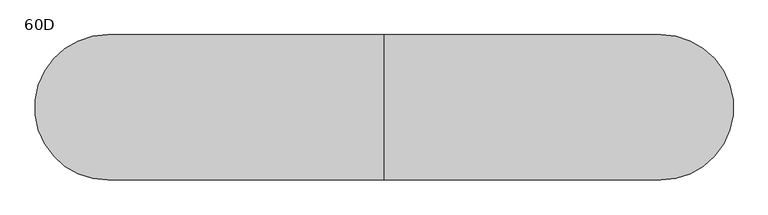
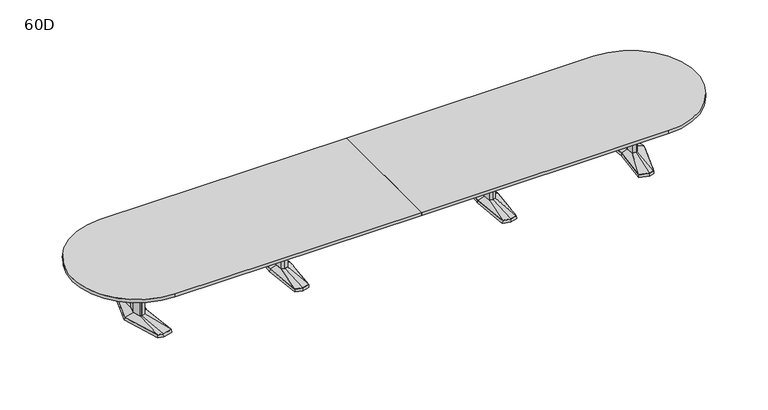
"""IFC4 building model written with IfcOpenShell, lengths in millimetres: furniture geometry, Coalesse_AM_Table_Conference_ETable2_Racetrack_24ft_AluminiumBase : 60D."""

from ifc_helpers import new_model, si_unit, point, frame, frame_2d, origin, place, context, project, spatial, polyline, circle_curve, trimmed, segment, composite_curve, outline, extrude, faceted_brep, source, transform, mapped, element, save
from ifc_brep_helpers import plane_surface, spline_surface, advanced_brep


def furniture_60d_6072927f(model_context):
    return source(origin(), model_context, "Body", "SolidModel", [
        faceted_brep([(1137.9666209, -433.8053819, 38.1), (1219.2, -455.556576, 38.1), (1300.4333791, -433.8053819, 38.1), (1338.2564774, 0.0, 38.1), (1300.4333791, 433.8053819, 38.1), (1219.2, 455.556576, 38.1), (1137.9666209, 433.8053819, 38.1), (1100.1435226, 0.0, 38.1), (1136.4817205, -435.0512063, 3.175), (1098.55, 0.0, 3.175), (1136.4817205, 435.0512063, 3.175), (1219.2, 457.2, 3.175), (1301.9182795, 435.0512063, 3.175), (1339.85, 0.0, 3.175), (1301.9182795, -435.0512063, 3.175), (1219.2, -457.2, 3.175), (1219.2, 429.2617927, 3.175), (1141.2323194, 408.3850278, 3.175), (1144.4980179, 382.9646737, 3.175), (1219.2, 402.9670094, 3.175), (1293.9019821, 382.9646737, 3.175), (1297.1676806, 408.3850278, 3.175), (1219.2, -429.2617927, 3.175), (1297.1676806, -408.3850278, 3.175), (1293.9019821, -382.9646737, 3.175), (1219.2, -402.9670094, 3.175), (1144.4980179, -382.9646737, 3.175), (1141.2323194, -408.3850278, 3.175), (1147.3425738, 114.6326257, 3.175), (1136.6573924, 0.0, 3.175), (1147.3425738, -114.6326257, 3.175), (1219.2, -133.8761372, 3.175), (1291.0574262, -114.6326257, 3.175), (1301.7426076, 0.0, 3.175), (1291.0574262, 114.6326257, 3.175), (1219.2, 133.8761372, 3.175), (1219.2, 429.2617927, 0.0), (1297.1676806, 408.3850278, 0.0), (1293.9019821, 382.9646737, 0.0), (1219.2, 402.9670094, 0.0), (1144.4980179, 382.9646737, 0.0), (1141.2323194, 408.3850278, 0.0), (1219.2, -429.2617927, 0.0), (1141.2323194, -408.3850278, 0.0), (1144.4980179, -382.9646737, 0.0), (1219.2, -402.9670094, 0.0), (1293.9019821, -382.9646737, 0.0), (1297.1676806, -408.3850278, 0.0), (1147.3425738, 114.6326257, 0.0), (1219.2, 133.8761372, 0.0), (1291.0574262, 114.6326257, 0.0), (1301.7426076, 0.0, 0.0), (1291.0574262, -114.6326257, 0.0), (1219.2, -133.8761372, 0.0), (1147.3425738, -114.6326257, 0.0), (1136.6573924, 0.0, 0.0)], [[[0, 1, 2, 3, 4, 5, 6, 7]], [[8, 9, 10, 11, 12, 13, 14, 15], [16, 17, 18, 19, 20, 21], [22, 23, 24, 25, 26, 27], [28, 29, 30, 31, 32, 33, 34, 35]], [[1, 0, 8, 15]], [[2, 1, 15, 14]], [[3, 2, 14, 13]], [[4, 3, 13, 12]], [[5, 4, 12, 11]], [[6, 5, 11, 10]], [[7, 6, 10, 9]], [[0, 7, 9, 8]], [[36, 37, 38, 39, 40, 41]], [[42, 43, 44, 45, 46, 47]], [[48, 49, 50, 51, 52, 53, 54, 55]], [[36, 41, 17, 16]], [[41, 40, 18, 17]], [[40, 39, 19, 18]], [[39, 38, 20, 19]], [[38, 37, 21, 20]], [[37, 36, 16, 21]], [[42, 47, 23, 22]], [[47, 46, 24, 23]], [[46, 45, 25, 24]], [[45, 44, 26, 25]], [[44, 43, 27, 26]], [[43, 42, 22, 27]], [[48, 55, 29, 28]], [[55, 54, 30, 29]], [[54, 53, 31, 30]], [[53, 52, 32, 31]], [[52, 51, 33, 32]], [[51, 50, 34, 33]], [[50, 49, 35, 34]], [[49, 48, 28, 35]]]),
        faceted_brep([(1182.8167166, 84.6900825, 698.5), (1174.9225513, 0.0, 698.5), (1182.8167166, -84.6900825, 698.5), (1219.2, -94.4335728, 698.5), (1255.5832834, -84.6900825, 698.5), (1263.4774487, 0.0, 698.5), (1255.5832834, 84.6900825, 698.5), (1219.2, 94.4335728, 698.5), (1182.8167166, 84.6900825, 63.5), (1219.2, 94.4335728, 63.5), (1255.5832834, 84.6900825, 63.5), (1263.4774487, 0.0, 63.5), (1255.5832834, -84.6900825, 63.5), (1219.2, -94.4335728, 63.5), (1182.8167166, -84.6900825, 63.5), (1174.9225513, 0.0, 63.5)], [[[0, 1, 2, 3, 4, 5, 6, 7]], [[8, 9, 10, 11, 12, 13, 14, 15]], [[1, 0, 8, 15]], [[2, 1, 15, 14]], [[3, 2, 14, 13]], [[4, 3, 13, 12]], [[5, 4, 12, 11]], [[6, 5, 11, 10]], [[7, 6, 10, 9]], [[0, 7, 9, 8]]]),
        advanced_brep(
        [(1182.8167166, 84.6900825, 63.5), (1174.9225513, 0.0, 63.5), (1182.8167166, -84.6900825, 63.5), (1219.2, -94.4335728, 63.5), (1255.5832834, -84.6900825, 63.5), (1263.4774487, 0.0, 63.5), (1255.5832834, 84.6900825, 63.5), (1219.2, 94.4335728, 63.5), (1137.9666209, 433.8053819, 38.1), (1219.2, 455.556576, 38.1), (1300.4333791, 433.8053819, 38.1), (1338.2564774, 0.0, 38.1), (1300.4333791, -433.8053819, 38.1), (1219.2, -455.556576, 38.1), (1137.9666209, -433.8053819, 38.1), (1100.1435226, 0.0, 38.1)],
        [
            (0, 1),
            (1, 2),
            (2, 3),
            (3, 4),
            (4, 5),
            (5, 6),
            (6, 7),
            (7, 0),
            (8, 9),
            (9, 10),
            (10, 11),
            (11, 12),
            (12, 13),
            (13, 14),
            (14, 15),
            (15, 8),
            (15, 1),
            (0, 8),
            (14, 2),
            (13, 3),
            (12, 4),
            (11, 5),
            (10, 6),
            (9, 7),
        ],
        [
            plane_surface(frame((1219.2, 0.0, 63.5), z_axis=(0.0, 0.0, 1.0000000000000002), x_axis=(-0.9659615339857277, -0.25868574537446, 0.0))),
            plane_surface(frame((1219.2, 0.0, 38.1), z_axis=(0.0, 0.0, -1.0000000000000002), x_axis=(-0.9659615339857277, -0.25868574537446, 0.0))),
            spline_surface(1, 1, [[(1137.9666209, 433.8053819, 38.1), (1182.8167166, 84.6900825, 63.5)], [(1100.1435226, 0.0, 38.1), (1174.9225513, 0.0, 63.5)]], [2, 2], [2, 2], [0.0, 1.0], [0.0, 1.0]),
            spline_surface(1, 1, [[(1100.1435226, 0.0, 38.1), (1174.9225513, 0.0, 63.5)], [(1137.9666209, -433.8053819, 38.1), (1182.8167166, -84.6900825, 63.5)]], [2, 2], [2, 2], [0.0, 1.0], [0.0, 1.0]),
            spline_surface(1, 1, [[(1137.9666209, -433.8053819, 38.1), (1182.8167166, -84.6900825, 63.5)], [(1219.2, -455.556576, 38.1), (1219.2, -94.4335728, 63.5)]], [2, 2], [2, 2], [0.0, 1.0], [0.0, 1.0]),
            spline_surface(1, 1, [[(1219.2, -455.556576, 38.1), (1219.2, -94.4335728, 63.5)], [(1300.4333791, -433.8053819, 38.1), (1255.5832834, -84.6900825, 63.5)]], [2, 2], [2, 2], [0.0, 1.0], [0.0, 1.0]),
            spline_surface(1, 1, [[(1300.4333791, -433.8053819, 38.1), (1255.5832834, -84.6900825, 63.5)], [(1338.2564774, 0.0, 38.1), (1263.4774487, 0.0, 63.5)]], [2, 2], [2, 2], [0.0, 1.0], [0.0, 1.0]),
            spline_surface(1, 1, [[(1338.2564774, 0.0, 38.1), (1263.4774487, 0.0, 63.5)], [(1300.4333791, 433.8053819, 38.1), (1255.5832834, 84.6900825, 63.5)]], [2, 2], [2, 2], [0.0, 1.0], [0.0, 1.0]),
            spline_surface(1, 1, [[(1300.4333791, 433.8053819, 38.1), (1255.5832834, 84.6900825, 63.5)], [(1219.2, 455.556576, 38.1), (1219.2, 94.4335728, 63.5)]], [2, 2], [2, 2], [0.0, 1.0], [0.0, 1.0]),
            spline_surface(1, 1, [[(1219.2, 455.556576, 38.1), (1219.2, 94.4335728, 63.5)], [(1137.9666209, 433.8053819, 38.1), (1182.8167166, 84.6900825, 63.5)]], [2, 2], [2, 2], [0.0, 1.0], [0.0, 1.0]),
        ],
        [
            (0, [[1, 2, 3, 4, 5, 6, 7, 8]]),
            (1, [[9, 10, 11, 12, 13, 14, 15, 16]]),
            (2, [[-16, 17, -1, 18]]),
            (3, [[-15, 19, -2, -17]]),
            (4, [[-14, 20, -3, -19]]),
            (5, [[-13, 21, -4, -20]]),
            (6, [[-12, 22, -5, -21]]),
            (7, [[-11, 23, -6, -22]]),
            (8, [[-10, 24, -7, -23]]),
            (9, [[-9, -18, -8, -24]]),
        ],
    ),
        faceted_brep([(-1300.4333791, -433.8053819, 38.1), (-1219.2, -455.556576, 38.1), (-1137.9666209, -433.8053819, 38.1), (-1100.1435226, 0.0, 38.1), (-1137.9666209, 433.8053819, 38.1), (-1219.2, 455.556576, 38.1), (-1300.4333791, 433.8053819, 38.1), (-1338.2564774, 0.0, 38.1), (-1301.9182795, -435.0512063, 3.175), (-1339.85, 0.0, 3.175), (-1301.9182795, 435.0512063, 3.175), (-1219.2, 457.2, 3.175), (-1136.4817205, 435.0512063, 3.175), (-1098.55, 0.0, 3.175), (-1136.4817205, -435.0512063, 3.175), (-1219.2, -457.2, 3.175), (-1219.2, 429.2617927, 3.175), (-1297.1676806, 408.3850278, 3.175), (-1293.9019821, 382.9646737, 3.175), (-1219.2, 402.9670094, 3.175), (-1144.4980179, 382.9646737, 3.175), (-1141.2323194, 408.3850278, 3.175), (-1219.2, -429.2617927, 3.175), (-1141.2323194, -408.3850278, 3.175), (-1144.4980179, -382.9646737, 3.175), (-1219.2, -402.9670094, 3.175), (-1293.9019821, -382.9646737, 3.175), (-1297.1676806, -408.3850278, 3.175), (-1291.0574262, 114.6326257, 3.175), (-1301.7426076, 0.0, 3.175), (-1291.0574262, -114.6326257, 3.175), (-1219.2, -133.8761372, 3.175), (-1147.3425738, -114.6326257, 3.175), (-1136.6573924, 0.0, 3.175), (-1147.3425738, 114.6326257, 3.175), (-1219.2, 133.8761372, 3.175), (-1219.2, 429.2617927, 0.0), (-1141.2323194, 408.3850278, 0.0), (-1144.4980179, 382.9646737, 0.0), (-1219.2, 402.9670094, 0.0), (-1293.9019821, 382.9646737, 0.0), (-1297.1676806, 408.3850278, 0.0), (-1219.2, -429.2617927, 0.0), (-1297.1676806, -408.3850278, 0.0), (-1293.9019821, -382.9646737, 0.0), (-1219.2, -402.9670094, 0.0), (-1144.4980179, -382.9646737, 0.0), (-1141.2323194, -408.3850278, 0.0), (-1291.0574262, 114.6326257, 0.0), (-1219.2, 133.8761372, 0.0), (-1147.3425738, 114.6326257, 0.0), (-1136.6573924, 0.0, 0.0), (-1147.3425738, -114.6326257, 0.0), (-1219.2, -133.8761372, 0.0), (-1291.0574262, -114.6326257, 0.0), (-1301.7426076, 0.0, 0.0)], [[[0, 1, 2, 3, 4, 5, 6, 7]], [[8, 9, 10, 11, 12, 13, 14, 15], [16, 17, 18, 19, 20, 21], [22, 23, 24, 25, 26, 27], [28, 29, 30, 31, 32, 33, 34, 35]], [[1, 0, 8, 15]], [[2, 1, 15, 14]], [[3, 2, 14, 13]], [[4, 3, 13, 12]], [[5, 4, 12, 11]], [[6, 5, 11, 10]], [[7, 6, 10, 9]], [[0, 7, 9, 8]], [[36, 37, 38, 39, 40, 41]], [[42, 43, 44, 45, 46, 47]], [[48, 49, 50, 51, 52, 53, 54, 55]], [[36, 41, 17, 16]], [[41, 40, 18, 17]], [[40, 39, 19, 18]], [[39, 38, 20, 19]], [[38, 37, 21, 20]], [[37, 36, 16, 21]], [[42, 47, 23, 22]], [[47, 46, 24, 23]], [[46, 45, 25, 24]], [[45, 44, 26, 25]], [[44, 43, 27, 26]], [[43, 42, 22, 27]], [[48, 55, 29, 28]], [[55, 54, 30, 29]], [[54, 53, 31, 30]], [[53, 52, 32, 31]], [[52, 51, 33, 32]], [[51, 50, 34, 33]], [[50, 49, 35, 34]], [[49, 48, 28, 35]]]),
        faceted_brep([(-1255.5832834, 84.6900825, 698.5), (-1263.4774487, 0.0, 698.5), (-1255.5832834, -84.6900825, 698.5), (-1219.2, -94.4335728, 698.5), (-1182.8167166, -84.6900825, 698.5), (-1174.9225513, 0.0, 698.5), (-1182.8167166, 84.6900825, 698.5), (-1219.2, 94.4335728, 698.5), (-1255.5832834, 84.6900825, 63.5), (-1219.2, 94.4335728, 63.5), (-1182.8167166, 84.6900825, 63.5), (-1174.9225513, 0.0, 63.5), (-1182.8167166, -84.6900825, 63.5), (-1219.2, -94.4335728, 63.5), (-1255.5832834, -84.6900825, 63.5), (-1263.4774487, 0.0, 63.5)], [[[0, 1, 2, 3, 4, 5, 6, 7]], [[8, 9, 10, 11, 12, 13, 14, 15]], [[1, 0, 8, 15]], [[2, 1, 15, 14]], [[3, 2, 14, 13]], [[4, 3, 13, 12]], [[5, 4, 12, 11]], [[6, 5, 11, 10]], [[7, 6, 10, 9]], [[0, 7, 9, 8]]]),
        advanced_brep(
        [(-1255.5832834, 84.6900825, 63.5), (-1263.4774487, 0.0, 63.5), (-1255.5832834, -84.6900825, 63.5), (-1219.2, -94.4335728, 63.5), (-1182.8167166, -84.6900825, 63.5), (-1174.9225513, 0.0, 63.5), (-1182.8167166, 84.6900825, 63.5), (-1219.2, 94.4335728, 63.5), (-1300.4333791, 433.8053819, 38.1), (-1219.2, 455.556576, 38.1), (-1137.9666209, 433.8053819, 38.1), (-1100.1435226, 0.0, 38.1), (-1137.9666209, -433.8053819, 38.1), (-1219.2, -455.556576, 38.1), (-1300.4333791, -433.8053819, 38.1), (-1338.2564774, 0.0, 38.1)],
        [
            (0, 1),
            (1, 2),
            (2, 3),
            (3, 4),
            (4, 5),
            (5, 6),
            (6, 7),
            (7, 0),
            (8, 9),
            (9, 10),
            (10, 11),
            (11, 12),
            (12, 13),
            (13, 14),
            (14, 15),
            (15, 8),
            (15, 1),
            (0, 8),
            (14, 2),
            (13, 3),
            (12, 4),
            (11, 5),
            (10, 6),
            (9, 7),
        ],
        [
            plane_surface(frame((-1219.2, 0.0, 63.5), z_axis=(0.0, 0.0, 1.0000000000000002), x_axis=(-0.9659615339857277, -0.25868574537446, 0.0))),
            plane_surface(frame((-1219.2, 0.0, 38.1), z_axis=(0.0, 0.0, -1.0000000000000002), x_axis=(-0.9659615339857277, -0.25868574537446, 0.0))),
            spline_surface(1, 1, [[(-1300.4333791, 433.8053819, 38.1), (-1255.5832834, 84.6900825, 63.5)], [(-1338.2564774, 0.0, 38.1), (-1263.4774487, 0.0, 63.5)]], [2, 2], [2, 2], [0.0, 1.0], [0.0, 1.0]),
            spline_surface(1, 1, [[(-1338.2564774, 0.0, 38.1), (-1263.4774487, 0.0, 63.5)], [(-1300.4333791, -433.8053819, 38.1), (-1255.5832834, -84.6900825, 63.5)]], [2, 2], [2, 2], [0.0, 1.0], [0.0, 1.0]),
            spline_surface(1, 1, [[(-1300.4333791, -433.8053819, 38.1), (-1255.5832834, -84.6900825, 63.5)], [(-1219.2, -455.556576, 38.1), (-1219.2, -94.4335728, 63.5)]], [2, 2], [2, 2], [0.0, 1.0], [0.0, 1.0]),
            spline_surface(1, 1, [[(-1219.2, -455.556576, 38.1), (-1219.2, -94.4335728, 63.5)], [(-1137.9666209, -433.8053819, 38.1), (-1182.8167166, -84.6900825, 63.5)]], [2, 2], [2, 2], [0.0, 1.0], [0.0, 1.0]),
            spline_surface(1, 1, [[(-1137.9666209, -433.8053819, 38.1), (-1182.8167166, -84.6900825, 63.5)], [(-1100.1435226, 0.0, 38.1), (-1174.9225513, 0.0, 63.5)]], [2, 2], [2, 2], [0.0, 1.0], [0.0, 1.0]),
            spline_surface(1, 1, [[(-1100.1435226, 0.0, 38.1), (-1174.9225513, 0.0, 63.5)], [(-1137.9666209, 433.8053819, 38.1), (-1182.8167166, 84.6900825, 63.5)]], [2, 2], [2, 2], [0.0, 1.0], [0.0, 1.0]),
            spline_surface(1, 1, [[(-1137.9666209, 433.8053819, 38.1), (-1182.8167166, 84.6900825, 63.5)], [(-1219.2, 455.556576, 38.1), (-1219.2, 94.4335728, 63.5)]], [2, 2], [2, 2], [0.0, 1.0], [0.0, 1.0]),
            spline_surface(1, 1, [[(-1219.2, 455.556576, 38.1), (-1219.2, 94.4335728, 63.5)], [(-1300.4333791, 433.8053819, 38.1), (-1255.5832834, 84.6900825, 63.5)]], [2, 2], [2, 2], [0.0, 1.0], [0.0, 1.0]),
        ],
        [
            (0, [[1, 2, 3, 4, 5, 6, 7, 8]]),
            (1, [[9, 10, 11, 12, 13, 14, 15, 16]]),
            (2, [[-16, 17, -1, 18]]),
            (3, [[-15, 19, -2, -17]]),
            (4, [[-14, 20, -3, -19]]),
            (5, [[-13, 21, -4, -20]]),
            (6, [[-12, 22, -5, -21]]),
            (7, [[-11, 23, -6, -22]]),
            (8, [[-10, 24, -7, -23]]),
            (9, [[-9, -18, -8, -24]]),
        ],
    ),
        faceted_brep([(2852.8994335, 455.5848221, 38.1), (2743.3218777, 426.2263816, 38.1), (2784.4851217, 0.0, 38.1), (2743.3218777, -426.2263816, 38.1), (2852.8994335, -455.5848221, 38.1), (2909.0257896, -440.5478297, 38.1), (3046.3371769, 0.0, 38.1), (2909.0257896, 440.5478297, 38.1), (2852.8994254, 457.2283104, 3.175), (2910.2811972, 441.8549756, 3.175), (3048.0, 0.0, 3.175), (2910.2811972, -441.8549756, 3.175), (2852.8994254, -457.2283104, 3.175), (2741.6125, -427.4118891, 3.175), (2782.8902356, 0.0, 3.175), (2741.6125, 427.4118891, 3.175), (2856.488865, 428.3273875, 3.175), (2751.4405728, 402.1057253, 3.175), (2759.559268, 377.985069, 3.175), (2860.0782966, 401.0699529, 3.175), (2910.6379225, 387.524361, 3.175), (2909.8318561, 414.0360954, 3.175), (2856.488865, -428.3273875, 3.175), (2909.8318561, -414.0360954, 3.175), (2910.6379225, -387.524361, 3.175), (2860.0782966, -401.0699529, 3.175), (2759.559268, -377.985069, 3.175), (2751.4405728, -402.1057253, 3.175), (2983.0841121, 0.0, 3.175), (2950.8147111, 120.4193755, 3.175), (2902.1674722, 133.471665, 3.175), (2822.2868026, 119.4176561, 3.175), (2811.1555966, 0.0, 3.175), (2822.2868026, -119.4176561, 3.175), (2902.1674722, -133.471665, 3.175), (2950.8147111, -120.4193755, 3.175), (2856.488865, 428.3273875, 0.0), (2909.8318561, 414.0360954, 0.0), (2910.6379225, 387.524361, 0.0), (2860.0782966, 401.0699529, 0.0), (2759.559268, 377.985069, 0.0), (2751.4405728, 402.1057253, 0.0), (2856.488865, -428.3273875, 0.0), (2751.4405728, -402.1057253, 0.0), (2759.559268, -377.985069, 0.0), (2860.0782966, -401.0699529, 0.0), (2910.6379225, -387.524361, 0.0), (2909.8318561, -414.0360954, 0.0), (2983.0841121, 0.0, 0.0), (2950.8147111, -120.4193755, 0.0), (2902.1674722, -133.471665, 0.0), (2822.2868026, -119.4176561, 0.0), (2811.1555966, 0.0, 0.0), (2822.2868026, 119.4176561, 0.0), (2902.1674722, 133.471665, 0.0), (2950.8147111, 120.4193755, 0.0)], [[[0, 1, 2, 3, 4, 5, 6, 7]], [[8, 9, 10, 11, 12, 13, 14, 15], [16, 17, 18, 19, 20, 21], [22, 23, 24, 25, 26, 27], [28, 29, 30, 31, 32, 33, 34, 35]], [[7, 9, 8, 0]], [[6, 10, 9, 7]], [[5, 11, 10, 6]], [[4, 12, 11, 5]], [[3, 13, 12, 4]], [[2, 14, 13, 3]], [[1, 15, 14, 2]], [[0, 8, 15, 1]], [[36, 37, 38, 39, 40, 41]], [[42, 43, 44, 45, 46, 47]], [[48, 49, 50, 51, 52, 53, 54, 55]], [[36, 16, 21, 37]], [[37, 21, 20, 38]], [[38, 20, 19, 39]], [[39, 19, 18, 40]], [[40, 18, 17, 41]], [[41, 17, 16, 36]], [[42, 22, 27, 43]], [[43, 27, 26, 44]], [[44, 26, 25, 45]], [[45, 25, 24, 46]], [[46, 24, 23, 47]], [[47, 23, 22, 42]], [[48, 28, 35, 49]], [[49, 35, 34, 50]], [[50, 34, 33, 51]], [[51, 33, 32, 52]], [[52, 32, 31, 53]], [[53, 31, 30, 54]], [[54, 30, 29, 55]], [[55, 29, 28, 48]]]),
        faceted_brep([(2943.6398336, 0.0, 698.5), (2919.7046046, 89.3188359, 698.5), (2902.8512484, 93.8406728, 698.5), (2900.4514011, 94.4845635, 698.5), (2857.523896, 86.9320037, 698.5), (2849.4207556, 0.0, 698.5), (2857.523896, -86.9320037, 698.5), (2900.4514011, -94.4845635, 698.5), (2902.8512484, -93.8406728, 698.5), (2919.7046046, -89.3188359, 698.5), (2943.6398336, 0.0, 63.5), (2919.7046046, -89.3188359, 63.5), (2902.8512484, -93.8406728, 63.5), (2900.4514011, -94.4845635, 63.5), (2857.523896, -86.9320037, 63.5), (2849.4207556, 0.0, 63.5), (2857.523896, 86.9320037, 63.5), (2900.4514011, 94.4845635, 63.5), (2902.8512484, 93.8406728, 63.5), (2919.7046046, 89.3188359, 63.5)], [[[0, 1, 2, 3, 4, 5, 6, 7, 8, 9]], [[10, 11, 12, 13, 14, 15, 16, 17, 18, 19]], [[9, 11, 10, 0]], [[8, 12, 11, 9]], [[7, 13, 12, 8]], [[6, 14, 13, 7]], [[5, 15, 14, 6]], [[4, 16, 15, 5]], [[3, 17, 16, 4]], [[2, 18, 17, 3]], [[1, 19, 18, 2]], [[0, 10, 19, 1]]]),
        advanced_brep(
        [(2900.4514011, 94.4845635, 63.5), (2857.523896, 86.9320037, 63.5), (2849.4207556, 0.0, 63.5), (2857.523896, -86.9320037, 63.5), (2900.4514011, -94.4845635, 63.5), (2919.7046046, -89.3188359, 63.5), (2943.6398336, 0.0, 63.5), (2919.7046046, 89.3188359, 63.5), (2852.8994335, 455.5848221, 38.1), (2909.0257896, 440.5478297, 38.1), (3046.3371769, 0.0, 38.1), (2909.0257896, -440.5478297, 38.1), (2852.8994335, -455.5848221, 38.1), (2743.3218777, -426.2263816, 38.1), (2784.4851217, 0.0, 38.1), (2743.3218777, 426.2263816, 38.1)],
        [
            (0, 1),
            (1, 2),
            (2, 3),
            (3, 4),
            (4, 5),
            (5, 6),
            (6, 7),
            (7, 0),
            (8, 9),
            (9, 10),
            (10, 11),
            (11, 12),
            (12, 13),
            (13, 14),
            (14, 15),
            (15, 8),
            (8, 0),
            (7, 9),
            (6, 10),
            (5, 11),
            (4, 12),
            (3, 13),
            (2, 14),
            (1, 15),
        ],
        [
            plane_surface(frame((2893.5525491, 0.0, 63.5), z_axis=(0.0, 0.0, 1.0), x_axis=(-0.25884244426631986, -0.9659195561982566, 0.0))),
            plane_surface(frame((2855.1645625, 0.0, 38.1), z_axis=(0.0, 0.0, -1.0), x_axis=(-0.25884244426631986, -0.9659195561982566, 0.0))),
            spline_surface(1, 1, [[(2852.8994335, 455.5848221, 38.1), (2909.0257896, 440.5478297, 38.1)], [(2900.4514011, 94.4845635, 63.5), (2919.7046046, 89.3188359, 63.5)]], [2, 2], [2, 2], [0.0, 1.0], [0.0, 1.0]),
            spline_surface(1, 1, [[(2909.0257896, 440.5478297, 38.1), (3046.3371769, 0.0, 38.1)], [(2919.7046046, 89.3188359, 63.5), (2943.6398336, 0.0, 63.5)]], [2, 2], [2, 2], [0.0, 1.0], [0.0, 1.0]),
            spline_surface(1, 1, [[(3046.3371769, 0.0, 38.1), (2909.0257896, -440.5478297, 38.1)], [(2943.6398336, 0.0, 63.5), (2919.7046046, -89.3188359, 63.5)]], [2, 2], [2, 2], [0.0, 1.0], [0.0, 1.0]),
            spline_surface(1, 1, [[(2909.0257896, -440.5478297, 38.1), (2852.8994335, -455.5848221, 38.1)], [(2919.7046046, -89.3188359, 63.5), (2900.4514011, -94.4845635, 63.5)]], [2, 2], [2, 2], [0.0, 1.0], [0.0, 1.0]),
            spline_surface(1, 1, [[(2852.8994335, -455.5848221, 38.1), (2743.3218777, -426.2263816, 38.1)], [(2900.4514011, -94.4845635, 63.5), (2857.523896, -86.9320037, 63.5)]], [2, 2], [2, 2], [0.0, 1.0], [0.0, 1.0]),
            spline_surface(1, 1, [[(2743.3218777, -426.2263816, 38.1), (2784.4851217, 0.0, 38.1)], [(2857.523896, -86.9320037, 63.5), (2849.4207556, 0.0, 63.5)]], [2, 2], [2, 2], [0.0, 1.0], [0.0, 1.0]),
            spline_surface(1, 1, [[(2784.4851217, 0.0, 38.1), (2743.3218777, 426.2263816, 38.1)], [(2849.4207556, 0.0, 63.5), (2857.523896, 86.9320037, 63.5)]], [2, 2], [2, 2], [0.0, 1.0], [0.0, 1.0]),
            spline_surface(1, 1, [[(2743.3218777, 426.2263816, 38.1), (2852.8994335, 455.5848221, 38.1)], [(2857.523896, 86.9320037, 63.5), (2900.4514011, 94.4845635, 63.5)]], [2, 2], [2, 2], [0.0, 1.0], [0.0, 1.0]),
        ],
        [
            (0, [[1, 2, 3, 4, 5, 6, 7, 8]]),
            (1, [[9, 10, 11, 12, 13, 14, 15, 16]]),
            (2, [[17, -8, 18, -9]]),
            (3, [[-18, -7, 19, -10]]),
            (4, [[-19, -6, 20, -11]]),
            (5, [[-20, -5, 21, -12]]),
            (6, [[-21, -4, 22, -13]]),
            (7, [[-22, -3, 23, -14]]),
            (8, [[-23, -2, 24, -15]]),
            (9, [[-24, -1, -17, -16]]),
        ],
    ),
        faceted_brep([(-2852.8994335, 455.5848221, 38.1), (-2909.0257896, 440.5478297, 38.1), (-3046.3371769, 0.0, 38.1), (-2909.0257896, -440.5478297, 38.1), (-2852.8994335, -455.5848221, 38.1), (-2743.3218777, -426.2263816, 38.1), (-2784.4851217, 0.0, 38.1), (-2743.3218777, 426.2263816, 38.1), (-2852.8994254, 457.2283104, 3.175), (-2741.6125, 427.4118891, 3.175), (-2782.8902356, 0.0, 3.175), (-2741.6125, -427.4118891, 3.175), (-2852.8994254, -457.2283104, 3.175), (-2910.2811972, -441.8549756, 3.175), (-3048.0, 0.0, 3.175), (-2910.2811972, 441.8549756, 3.175), (-2856.488865, 428.3273875, 3.175), (-2909.8318561, 414.0360954, 3.175), (-2910.6379225, 387.524361, 3.175), (-2860.0782966, 401.0699529, 3.175), (-2759.559268, 377.985069, 3.175), (-2751.4405728, 402.1057253, 3.175), (-2856.488865, -428.3273875, 3.175), (-2751.4405728, -402.1057253, 3.175), (-2759.559268, -377.985069, 3.175), (-2860.0782966, -401.0699529, 3.175), (-2910.6379225, -387.524361, 3.175), (-2909.8318561, -414.0360954, 3.175), (-2983.0841121, 0.0, 3.175), (-2950.8147111, -120.4193755, 3.175), (-2902.1674722, -133.471665, 3.175), (-2822.2868026, -119.4176561, 3.175), (-2811.1555966, 0.0, 3.175), (-2822.2868026, 119.4176561, 3.175), (-2902.1674722, 133.471665, 3.175), (-2950.8147111, 120.4193755, 3.175), (-2856.488865, 428.3273875, 0.0), (-2751.4405728, 402.1057253, 0.0), (-2759.559268, 377.985069, 0.0), (-2860.0782966, 401.0699529, 0.0), (-2910.6379225, 387.524361, 0.0), (-2909.8318561, 414.0360954, 0.0), (-2856.488865, -428.3273875, 0.0), (-2909.8318561, -414.0360954, 0.0), (-2910.6379225, -387.524361, 0.0), (-2860.0782966, -401.0699529, 0.0), (-2759.559268, -377.985069, 0.0), (-2751.4405728, -402.1057253, 0.0), (-2983.0841121, 0.0, 0.0), (-2950.8147111, 120.4193755, 0.0), (-2902.1674722, 133.471665, 0.0), (-2822.2868026, 119.4176561, 0.0), (-2811.1555966, 0.0, 0.0), (-2822.2868026, -119.4176561, 0.0), (-2902.1674722, -133.471665, 0.0), (-2950.8147111, -120.4193755, 0.0)], [[[0, 1, 2, 3, 4, 5, 6, 7]], [[8, 9, 10, 11, 12, 13, 14, 15], [16, 17, 18, 19, 20, 21], [22, 23, 24, 25, 26, 27], [28, 29, 30, 31, 32, 33, 34, 35]], [[1, 0, 8, 15]], [[2, 1, 15, 14]], [[3, 2, 14, 13]], [[4, 3, 13, 12]], [[5, 4, 12, 11]], [[6, 5, 11, 10]], [[7, 6, 10, 9]], [[0, 7, 9, 8]], [[36, 37, 38, 39, 40, 41]], [[42, 43, 44, 45, 46, 47]], [[48, 49, 50, 51, 52, 53, 54, 55]], [[36, 41, 17, 16]], [[41, 40, 18, 17]], [[40, 39, 19, 18]], [[39, 38, 20, 19]], [[38, 37, 21, 20]], [[37, 36, 16, 21]], [[42, 47, 23, 22]], [[47, 46, 24, 23]], [[46, 45, 25, 24]], [[45, 44, 26, 25]], [[44, 43, 27, 26]], [[43, 42, 22, 27]], [[48, 55, 29, 28]], [[55, 54, 30, 29]], [[54, 53, 31, 30]], [[53, 52, 32, 31]], [[52, 51, 33, 32]], [[51, 50, 34, 33]], [[50, 49, 35, 34]], [[49, 48, 28, 35]]]),
        faceted_brep([(-2943.6398336, 0.0, 698.5), (-2919.7046046, -89.3188359, 698.5), (-2902.8512484, -93.8406728, 698.5), (-2900.4514011, -94.4845635, 698.5), (-2857.523896, -86.9320037, 698.5), (-2849.4207556, 0.0, 698.5), (-2857.523896, 86.9320037, 698.5), (-2900.4514011, 94.4845635, 698.5), (-2902.8512484, 93.8406728, 698.5), (-2919.7046046, 89.3188359, 698.5), (-2943.6398336, 0.0, 63.5), (-2919.7046046, 89.3188359, 63.5), (-2902.8512484, 93.8406728, 63.5), (-2900.4514011, 94.4845635, 63.5), (-2857.523896, 86.9320037, 63.5), (-2849.4207556, 0.0, 63.5), (-2857.523896, -86.9320037, 63.5), (-2900.4514011, -94.4845635, 63.5), (-2902.8512484, -93.8406728, 63.5), (-2919.7046046, -89.3188359, 63.5)], [[[0, 1, 2, 3, 4, 5, 6, 7, 8, 9]], [[10, 11, 12, 13, 14, 15, 16, 17, 18, 19]], [[1, 0, 10, 19]], [[2, 1, 19, 18]], [[3, 2, 18, 17]], [[4, 3, 17, 16]], [[5, 4, 16, 15]], [[6, 5, 15, 14]], [[7, 6, 14, 13]], [[8, 7, 13, 12]], [[9, 8, 12, 11]], [[0, 9, 11, 10]]]),
        advanced_brep(
        [(-2900.4514011, 94.4845635, 63.5), (-2919.7046046, 89.3188359, 63.5), (-2943.6398336, 0.0, 63.5), (-2919.7046046, -89.3188359, 63.5), (-2900.4514011, -94.4845635, 63.5), (-2857.523896, -86.9320037, 63.5), (-2849.4207556, 0.0, 63.5), (-2857.523896, 86.9320037, 63.5), (-2852.8994335, 455.5848221, 38.1), (-2743.3218777, 426.2263816, 38.1), (-2784.4851217, 0.0, 38.1), (-2743.3218777, -426.2263816, 38.1), (-2852.8994335, -455.5848221, 38.1), (-2909.0257896, -440.5478297, 38.1), (-3046.3371769, 0.0, 38.1), (-2909.0257896, 440.5478297, 38.1)],
        [
            (0, 1),
            (1, 2),
            (2, 3),
            (3, 4),
            (4, 5),
            (5, 6),
            (6, 7),
            (7, 0),
            (8, 9),
            (9, 10),
            (10, 11),
            (11, 12),
            (12, 13),
            (13, 14),
            (14, 15),
            (15, 8),
            (15, 1),
            (0, 8),
            (14, 2),
            (13, 3),
            (12, 4),
            (11, 5),
            (10, 6),
            (9, 7),
        ],
        [
            plane_surface(frame((-2893.5525491, 0.0, 63.5), z_axis=(0.0, 0.0, 1.0), x_axis=(0.25884244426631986, -0.9659195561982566, 0.0))),
            plane_surface(frame((-2855.1645625, 0.0, 38.1), z_axis=(0.0, 0.0, -1.0), x_axis=(0.25884244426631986, -0.9659195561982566, 0.0))),
            spline_surface(1, 1, [[(-2852.8994335, 455.5848221, 38.1), (-2900.4514011, 94.4845635, 63.5)], [(-2909.0257896, 440.5478297, 38.1), (-2919.7046046, 89.3188359, 63.5)]], [2, 2], [2, 2], [0.0, 1.0], [0.0, 1.0]),
            spline_surface(1, 1, [[(-2909.0257896, 440.5478297, 38.1), (-2919.7046046, 89.3188359, 63.5)], [(-3046.3371769, 0.0, 38.1), (-2943.6398336, 0.0, 63.5)]], [2, 2], [2, 2], [0.0, 1.0], [0.0, 1.0]),
            spline_surface(1, 1, [[(-3046.3371769, 0.0, 38.1), (-2943.6398336, 0.0, 63.5)], [(-2909.0257896, -440.5478297, 38.1), (-2919.7046046, -89.3188359, 63.5)]], [2, 2], [2, 2], [0.0, 1.0], [0.0, 1.0]),
            spline_surface(1, 1, [[(-2909.0257896, -440.5478297, 38.1), (-2919.7046046, -89.3188359, 63.5)], [(-2852.8994335, -455.5848221, 38.1), (-2900.4514011, -94.4845635, 63.5)]], [2, 2], [2, 2], [0.0, 1.0], [0.0, 1.0]),
            spline_surface(1, 1, [[(-2852.8994335, -455.5848221, 38.1), (-2900.4514011, -94.4845635, 63.5)], [(-2743.3218777, -426.2263816, 38.1), (-2857.523896, -86.9320037, 63.5)]], [2, 2], [2, 2], [0.0, 1.0], [0.0, 1.0]),
            spline_surface(1, 1, [[(-2743.3218777, -426.2263816, 38.1), (-2857.523896, -86.9320037, 63.5)], [(-2784.4851217, 0.0, 38.1), (-2849.4207556, 0.0, 63.5)]], [2, 2], [2, 2], [0.0, 1.0], [0.0, 1.0]),
            spline_surface(1, 1, [[(-2784.4851217, 0.0, 38.1), (-2849.4207556, 0.0, 63.5)], [(-2743.3218777, 426.2263816, 38.1), (-2857.523896, 86.9320037, 63.5)]], [2, 2], [2, 2], [0.0, 1.0], [0.0, 1.0]),
            spline_surface(1, 1, [[(-2743.3218777, 426.2263816, 38.1), (-2857.523896, 86.9320037, 63.5)], [(-2852.8994335, 455.5848221, 38.1), (-2900.4514011, 94.4845635, 63.5)]], [2, 2], [2, 2], [0.0, 1.0], [0.0, 1.0]),
        ],
        [
            (0, [[1, 2, 3, 4, 5, 6, 7, 8]]),
            (1, [[9, 10, 11, 12, 13, 14, 15, 16]]),
            (2, [[-16, 17, -1, 18]]),
            (3, [[-15, 19, -2, -17]]),
            (4, [[-14, 20, -3, -19]]),
            (5, [[-13, 21, -4, -20]]),
            (6, [[-12, 22, -5, -21]]),
            (7, [[-11, 23, -6, -22]]),
            (8, [[-10, 24, -7, -23]]),
            (9, [[-9, -18, -8, -24]]),
        ],
    ),
        extrude(outline(polyline([(96.8375, 698.5), (103.1875, 698.5), (103.1875, 476.25), (-103.1875, 476.25), (-103.1875, 698.5), (-96.8375, 698.5), (-96.8375, 482.6), (96.8375, 482.6), (96.8375, 698.5)])), frame((-1174.9225513, 0.0, 0.0), z_axis=(1.0, 0.0, 0.0), x_axis=(0.0, 1.0, 0.0)), (0.0, 0.0, 1.0), 2349.8451026),
        extrude(outline(polyline([(96.8375, 698.5), (103.1875, 698.5), (103.1875, 476.25), (-103.1875, 476.25), (-103.1875, 698.5), (-96.8375, 698.5), (-96.8375, 482.6), (96.8375, 482.6), (96.8375, 698.5)])), frame((1263.4774487, 0.0, 0.0), z_axis=(1.0, 0.0, 0.0), x_axis=(0.0, 1.0, 0.0)), (0.0, 0.0, 1.0), 1586.0850513),
        extrude(outline(composite_curve([segment(trimmed(circle_curve(frame_2d((2895.6, 0.0)), 762.0), [point((2895.6, 762.0))], [point((2895.6, -762.0))], False, "CARTESIAN"), True, "CONTINUOUS"), segment(polyline([(2895.6, -762.0), (0.0, -762.0), (0.0, 762.0), (2895.6, 762.0)]), True, "CONTINUOUS")], self_intersect=False)), frame((0.0, 0.0, 698.5), z_axis=(0.0, 0.0, 1.0), x_axis=(1.0, 0.0, 0.0)), (0.0, 0.0, 1.0), 38.1),
        extrude(outline(composite_curve([segment(polyline([(0.0, 762.0), (0.0, -762.0), (-2895.6, -762.0)]), True, "CONTINUOUS"), segment(trimmed(circle_curve(frame_2d((-2895.6, 0.0)), 762.0), [point((-2895.6, -762.0))], [point((-2895.6, 762.0))], False, "CARTESIAN"), True, "CONTINUOUS"), segment(polyline([(-2895.6, 762.0), (0.0, 762.0)]), True, "CONTINUOUS")], self_intersect=False)), frame((0.0, 0.0, 698.5), z_axis=(0.0, 0.0, 1.0), x_axis=(1.0, 0.0, 0.0)), (0.0, 0.0, 1.0), 38.1),
        extrude(outline(polyline([(96.8375, 698.5), (103.1875, 698.5), (103.1875, 476.25), (-103.1875, 476.25), (-103.1875, 698.5), (-96.8375, 698.5), (-96.8375, 482.6), (96.8375, 482.6), (96.8375, 698.5)])), frame((-2849.5625, 0.0, 0.0), z_axis=(1.0, 0.0, 0.0), x_axis=(0.0, 1.0, 0.0)), (0.0, 0.0, 1.0), 1586.0850513),
    ])


if __name__ == "__main__":
    model = new_model("IFC4")
    model_context = context("Model", 3, world=origin())
    ifc_project = project(units=[si_unit("LENGTHUNIT", "METRE", prefix="MILLI")], contexts=[model_context])
    site = spatial("IfcSite", under=ifc_project)
    building = spatial("IfcBuilding", under=site)
    placement = place(None, origin())
    furniture_60d_shape = furniture_60d_6072927f(model_context)
    element("IfcFurniture", 1, ObjectType="Coalesse_AM_Table_Conference_ETable2_Racetrack_24ft_AluminiumBase : 60D", at=placement, inside=building, context=model_context, shape_type="MappedRepresentation", body=[
        mapped(furniture_60d_shape, transform((0.0, 0.0, 0.0), x_axis=(1.0, 0.0, 0.0), y_axis=(0.0, 1.0, 0.0), z_axis=(0.0, 0.0, 1.0))),
    ])
    save(model, "model.ifc")
